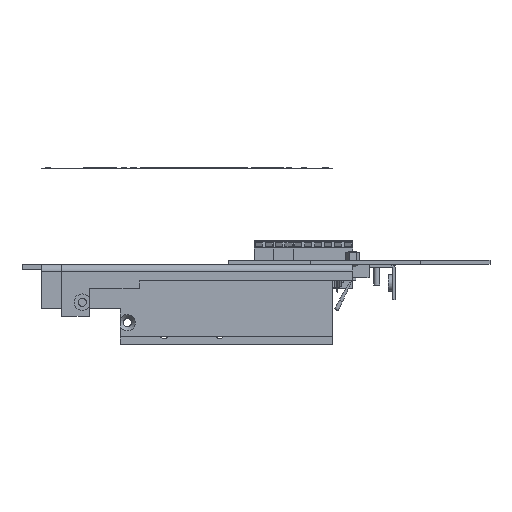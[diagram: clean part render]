
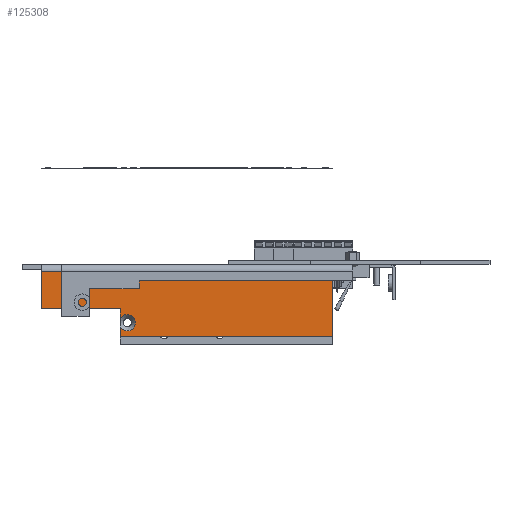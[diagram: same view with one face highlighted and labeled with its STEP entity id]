
A CAD part, left-side view. The second image highlights one B-rep face of the part: STEP entity #125308.
In plain terms, the highlighted planar face has unit normal (-1, 0, 0).
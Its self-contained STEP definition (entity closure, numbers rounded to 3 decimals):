
#34357=VERTEX_POINT('',#284669);
#34358=VERTEX_POINT('',#284670);
#34360=VERTEX_POINT('',#284676);
#34363=VERTEX_POINT('',#284682);
#34401=VERTEX_POINT('',#284790);
#34403=VERTEX_POINT('',#284797);
#34405=VERTEX_POINT('',#284805);
#34406=VERTEX_POINT('',#284807);
#51223=EDGE_CURVE('',#34358,#34357,#167465,.T.);
#51225=EDGE_CURVE('',#34360,#34358,#150996,.T.);
#51229=EDGE_CURVE('',#34357,#34363,#150996,.T.);
#51275=EDGE_CURVE('',#34401,#34360,#151020,.T.);
#51278=EDGE_CURVE('',#34403,#34401,#151022,.T.);
#51283=EDGE_CURVE('',#34405,#34363,#151025,.T.);
#51284=EDGE_CURVE('',#34405,#34406,#151026,.T.);
#51285=EDGE_CURVE('',#34406,#34403,#151027,.T.);
#81955=ORIENTED_EDGE('',*,*,#51223,.T.);
#81956=ORIENTED_EDGE('',*,*,#51229,.T.);
#81957=ORIENTED_EDGE('',*,*,#51283,.F.);
#81958=ORIENTED_EDGE('',*,*,#51284,.T.);
#81959=ORIENTED_EDGE('',*,*,#51285,.T.);
#81960=ORIENTED_EDGE('',*,*,#51278,.T.);
#81961=ORIENTED_EDGE('',*,*,#51275,.T.);
#81962=ORIENTED_EDGE('',*,*,#51225,.T.);
#106923=EDGE_LOOP('',(#81955,#81956,#81957,#81958,#81959,#81960,#81961,#81962));
#116272=FACE_BOUND('',#106923,.T.);
#125308=ADVANCED_FACE('',(#116272),#227279,.T.);
#150996=LINE('',#284675,#218311);
#151020=LINE('',#284789,#218335);
#151022=LINE('',#284796,#218337);
#151025=LINE('',#284804,#218340);
#151026=LINE('',#284806,#218341);
#151027=LINE('',#284808,#218342);
#167465=CIRCLE('',#201857,0.318);
#201857=AXIS2_PLACEMENT_3D('',#284671,#414647,#414648);
#201914=AXIS2_PLACEMENT_3D('',#284803,#414777,$);
#218311=VECTOR('',#414652,1.);
#218335=VECTOR('',#414763,1.);
#218337=VECTOR('',#414770,1.);
#218340=VECTOR('',#414778,1.);
#218341=VECTOR('',#414779,1.);
#218342=VECTOR('',#414780,1.);
#227279=PLANE('',#201914);
#284669=CARTESIAN_POINT('',(0.,8.961,-2.412));
#284670=CARTESIAN_POINT('',(0.,8.961,-2.084));
#284671=CARTESIAN_POINT('',(0.,8.689,-2.248));
#284675=CARTESIAN_POINT('',(0.,8.961,-1.513));
#284676=CARTESIAN_POINT('',(0.,8.961,-1.699));
#284682=CARTESIAN_POINT('',(0.,8.961,-2.771));
#284789=CARTESIAN_POINT('',(0.,4.481,-1.699));
#284790=CARTESIAN_POINT('',(0.,11.986,-1.699));
#284796=CARTESIAN_POINT('',(0.,11.986,-7.749));
#284797=CARTESIAN_POINT('',(0.,11.986,-0.254));
#284803=CARTESIAN_POINT('',(0.,0.,-0.254));
#284804=CARTESIAN_POINT('',(0.,0.,-2.771));
#284805=CARTESIAN_POINT('',(0.,0.762,-2.771));
#284806=CARTESIAN_POINT('',(0.,0.762,-7.749));
#284807=CARTESIAN_POINT('',(0.,0.762,-0.254));
#284808=CARTESIAN_POINT('',(0.,0.,-0.254));
#414647=DIRECTION('',(1.,0.,0.));
#414648=DIRECTION('',(0.,0.318,0.));
#414652=DIRECTION('',(0.,0.,-1.));
#414763=DIRECTION('',(0.,-1.,0.));
#414770=DIRECTION('',(0.,0.,-1.));
#414777=DIRECTION('',(-1.,0.,0.));
#414778=DIRECTION('',(0.,1.,0.));
#414779=DIRECTION('',(0.,0.,1.));
#414780=DIRECTION('',(0.,1.,0.));
